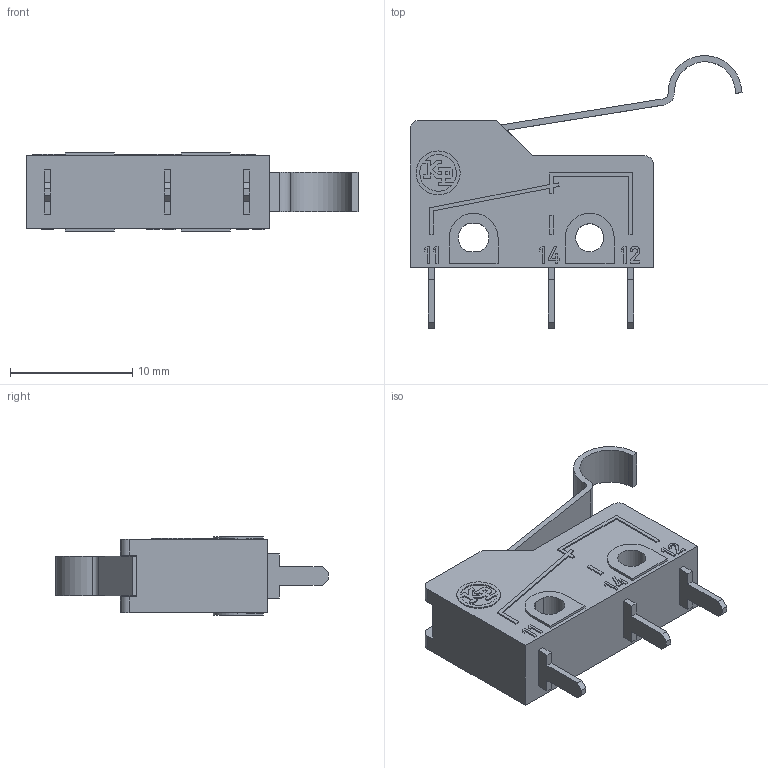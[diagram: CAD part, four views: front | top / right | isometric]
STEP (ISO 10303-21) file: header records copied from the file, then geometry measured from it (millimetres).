
FILE_DESCRIPTION(('Microrutor Subminiatura Alavanca c/ Roldana Simulada'),'2;1');
FILE_NAME('E:\WorkFolder\Bibl\3DWeb\kp_mm_mm$d2$i.stp','2011-12-13T14:52:36',('DIE'),('KAP'),'Autodesk Inventor 2011','Autodesk Inventor 2011','Direitos reservados. Proibido reproducao, cedencia ou revelacao de conteudo a terceiros, salvo com autorizacao.');
FILE_SCHEMA(('AUTOMOTIVE_DESIGN { 1 0 10303 214 1 1 1 1 }'));
Length unit declared in the file: millimetre
Products named in the file (1): Part1
Bounding box: 27.16 x 22.3 x 6.4 mm (x, y, z)
Volume: 1203.7 mm3; surface area: 1196.1 mm2
Topology: 1 solids, 1 shells, 277 faces, 749 edges, 499 vertices
Faces by surface type: plane 245, cylinder 32
Full cylindrical faces by diameter (mm): 2.3 x1, 3.6 x1
Entity records: 8892 total; most frequent: CARTESIAN_POINT 1523, ORIENTED_EDGE 1494, DIRECTION 1368, EDGE_CURVE 747, VECTOR 682, LINE 682, VERTEX_POINT 498, AXIS2_PLACEMENT_3D 343
